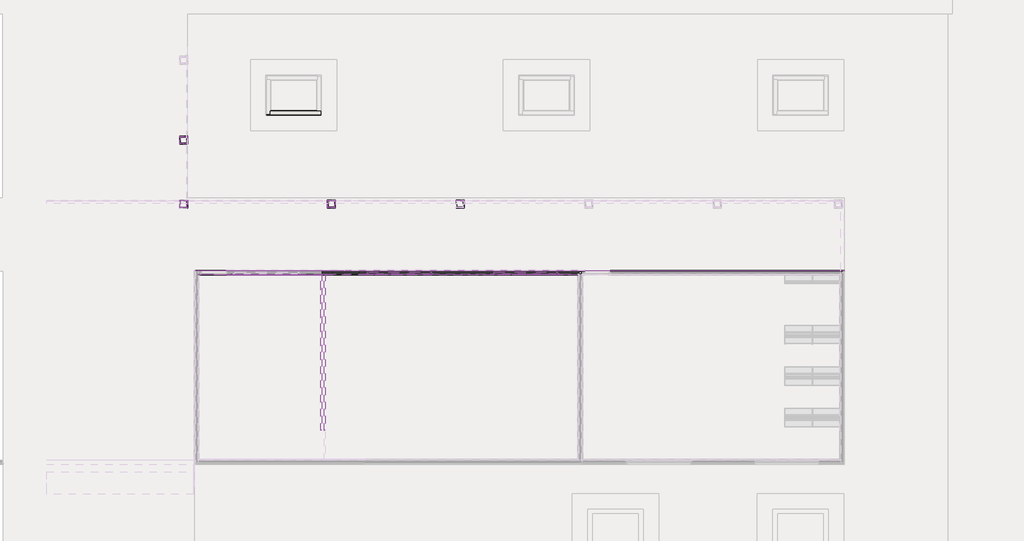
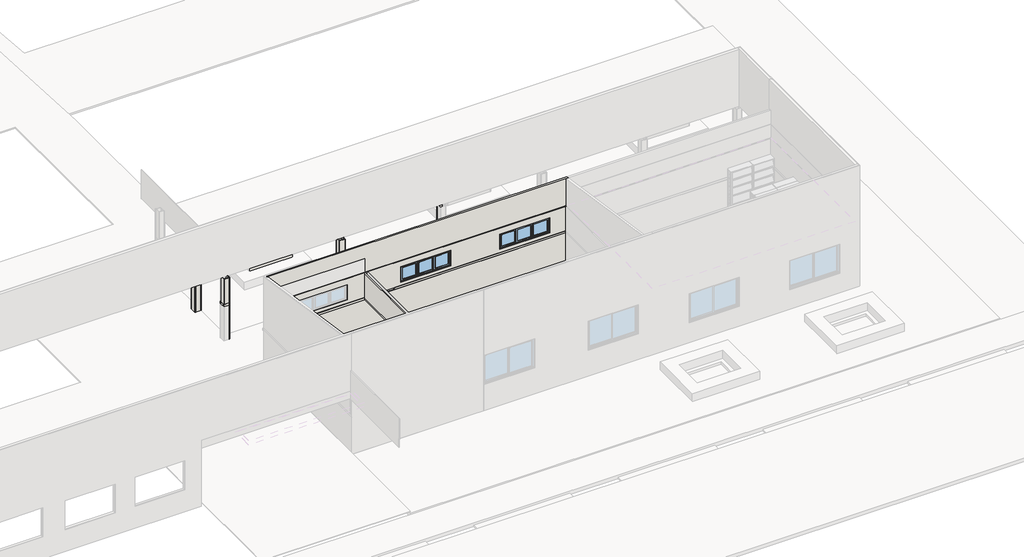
# One storey, part 12 of 28: 57 walls, 2 windows.
"""IFC4 building model written with IfcOpenShell, lengths in millimetres."""

from ifc_helpers import new_model, si_unit, frame, origin, origin_with_axes, place, context, project, spatial, polyline, outline, extrude, faceted_brep, transform, mapped, element, save
from components import window_2x60x220_bcaba8dd

model = new_model("IFC4")

# Units and contexts
model_context = context("Model", 3, world=origin())
ifc_project = project(units=[si_unit("LENGTHUNIT", "METRE", prefix="MILLI")], contexts=[model_context])

# Site, building, storey
site = spatial("IfcSite", under=ifc_project)
building = spatial("IfcBuilding", under=site)
storey = spatial("IfcBuildingStorey", under=building, Name="Térreo", Elevation=0.0)

# Walls
placement = place(None, origin())
element("IfcWall", 1, ObjectType="FDE_S712_AlvenariadeTijoloCerâmico/Baiano_Alvenaria_9cm - Existente", at=placement, inside=storey, context=model_context, shape_type="Brep", body=[
    faceted_brep([(-15270.0, 10580.0, 3500.0), (-23530.0, 10580.0, 3500.0), (-23530.0, 10580.0, 0.0), (-23250.0, 10580.0, 0.0), (-23250.0, 10580.0, 2112.0), (-22416.0, 10580.0, 2112.0), (-22416.0, 10580.0, 1824.9435125), (-22416.0, 10580.0, 1731.0528047), (-22416.0, 10580.0, 0.0), (-15270.0, 10580.0, 0.0), (-15270.0, 10580.0, 1731.0528047), (-15270.0, 10580.0, 1824.9435125), (-15270.0, 10580.0, 2900.0), (-22131.0, 10580.0, 1965.0), (-22131.0, 10580.0, 2635.0), (-20061.0, 10580.0, 2635.0), (-20061.0, 10580.0, 1965.0), (-18035.0, 10580.0, 1965.0), (-18035.0, 10580.0, 2635.0), (-15965.0, 10580.0, 2635.0), (-15965.0, 10580.0, 1965.0), (-23530.0, 10670.0, 3500.0), (-15270.0, 10670.0, 3500.0), (-15270.0, 10670.0, 0.0), (-22416.0, 10670.0, 0.0), (-22416.0, 10670.0, 2112.0), (-23250.0, 10670.0, 2112.0), (-23250.0, 10670.0, 0.0), (-23530.0, 10670.0, 0.0), (-22131.0, 10670.0, 1965.0), (-20061.0, 10670.0, 1965.0), (-20061.0, 10670.0, 2635.0), (-22131.0, 10670.0, 2635.0), (-18035.0, 10670.0, 1965.0), (-15965.0, 10670.0, 1965.0), (-15965.0, 10670.0, 2635.0), (-18035.0, 10670.0, 2635.0)], [[[0, 1, 2, 3, 4, 5, 6, 7, 8, 9, 10, 11, 12], [13, 14, 15, 16], [17, 18, 19, 20]], [[21, 22, 23, 24, 25, 26, 27, 28], [29, 30, 31, 32], [33, 34, 35, 36]], [[2, 28, 27, 3]], [[23, 9, 8, 24]], [[1, 0, 22, 21]], [[2, 1, 21, 28]], [[26, 4, 3, 27]], [[4, 26, 25, 5]], [[5, 25, 24, 8, 7, 6]], [[9, 23, 22, 0, 12, 11, 10]], [[14, 13, 29, 32]], [[15, 14, 32, 31]], [[16, 15, 31, 30]], [[13, 16, 30, 29]], [[18, 17, 33, 36]], [[19, 18, 36, 35]], [[20, 19, 35, 34]], [[17, 20, 34, 33]]]),
])
element("IfcWall", 2, ObjectType="FDE_S712_AlvenariadeTijoloCerâmico/Baiano_Alvenaria_9cm - Existente", at=placement, inside=storey, context=model_context, shape_type="Brep", body=[
    faceted_brep([(-27630.0, 10580.0, 0.0), (-15300.0, 10580.0, 0.0), (-15180.0, 10580.0, 0.0), (-15180.0, 10580.0, 220.0), (-15270.0, 10580.0, 220.0), (-15270.0, 10580.0, 1731.0528047), (-15270.0, 10580.0, 1824.9435125), (-15270.0, 10580.0, 2900.0), (-15180.0, 10580.0, 2900.0), (-15180.0, 10580.0, 4098.5), (-27630.0, 10580.0, 4098.5), (-27630.0, 10580.0, 2900.0), (-27630.0, 10580.0, 1824.9435125), (-27630.0, 10580.0, 1731.0528047), (-27530.0, 10580.0, 240.0), (-27530.0, 10580.0, 1731.0528047), (-27530.0, 10580.0, 1824.9435125), (-27530.0, 10580.0, 2352.0), (-26696.0, 10580.0, 2352.0), (-26696.0, 10580.0, 1824.9435125), (-26696.0, 10580.0, 1731.0528047), (-26696.0, 10580.0, 240.0), (-26431.0, 10580.0, 1965.0), (-26431.0, 10580.0, 2635.0), (-24361.0, 10580.0, 2635.0), (-24361.0, 10580.0, 1965.0), (-22131.0, 10580.0, 1965.0), (-22131.0, 10580.0, 2635.0), (-20061.0, 10580.0, 2635.0), (-20061.0, 10580.0, 1965.0), (-18035.0, 10580.0, 1965.0), (-18035.0, 10580.0, 2635.0), (-15965.0, 10580.0, 2635.0), (-15965.0, 10580.0, 1965.0), (-15180.0, 10670.0, 0.0), (-27630.0, 10670.0, 0.0), (-27630.0, 10670.0, 1731.0528047), (-27630.0, 10670.0, 4085.0), (-15180.0, 10670.0, 4085.0), (-15180.0, 10670.0, 2900.0), (-15270.0, 10670.0, 2900.0), (-15270.0, 10670.0, 1731.0528047), (-15270.0, 10670.0, 220.0), (-15180.0, 10670.0, 220.0), (-27530.0, 10670.0, 2352.0), (-27530.0, 10670.0, 1824.9435125), (-27530.0, 10670.0, 1731.0528047), (-27530.0, 10670.0, 240.0), (-26696.0, 10670.0, 240.0), (-26696.0, 10670.0, 1731.0528047), (-26696.0, 10670.0, 1824.9435125), (-26696.0, 10670.0, 2352.0), (-26431.0, 10670.0, 2635.0), (-26431.0, 10670.0, 1965.0), (-24361.0, 10670.0, 1965.0), (-24361.0, 10670.0, 2635.0), (-22131.0, 10670.0, 2635.0), (-22131.0, 10670.0, 1965.0), (-20061.0, 10670.0, 1965.0), (-20061.0, 10670.0, 2635.0), (-18035.0, 10670.0, 2635.0), (-18035.0, 10670.0, 1965.0), (-15965.0, 10670.0, 1965.0), (-15965.0, 10670.0, 2635.0), (-27630.0, 10655.0, 0.0), (-15180.0, 10655.0, 220.0), (-15270.0, 10655.0, 220.0)], [[[0, 1, 2, 3, 4, 5, 6, 7, 8, 9, 10, 11, 12, 13], [14, 15, 16, 17, 18, 19, 20, 21], [22, 23, 24, 25], [26, 27, 28, 29], [30, 31, 32, 33]], [[34, 35, 36, 37, 38, 39, 40, 41, 42, 43], [44, 45, 46, 47, 48, 49, 50, 51], [52, 53, 54, 55], [56, 57, 58, 59], [60, 61, 62, 63]], [[2, 1, 0, 64, 35, 34]], [[0, 13, 12, 11, 10, 37, 36, 35, 64]], [[14, 47, 46, 45, 44, 17, 16, 15]], [[17, 44, 51, 18]], [[18, 51, 50, 49, 48, 21, 20, 19]], [[47, 14, 21, 48]], [[23, 22, 53, 52]], [[24, 23, 52, 55]], [[25, 24, 55, 54]], [[22, 25, 54, 53]], [[27, 26, 57, 56]], [[28, 27, 56, 59]], [[29, 28, 59, 58]], [[26, 29, 58, 57]], [[31, 30, 61, 60]], [[32, 31, 60, 63]], [[33, 32, 63, 62]], [[30, 33, 62, 61]], [[10, 9, 38, 37]], [[4, 3, 65, 43, 42, 66]], [[2, 34, 43, 65, 3]], [[8, 7, 40, 39]], [[4, 66, 42, 41, 40, 7, 6, 5]], [[38, 9, 8, 39]]]),
])
element("IfcWall", 3, ObjectType="Revestimento Cerâmico 10x10cm", at=placement, inside=storey, context=model_context, shape_type="Brep", body=[
    faceted_brep([(-27720.0, 10655.0, 1731.0528047), (-27720.0, 10655.0, 0.0), (-27630.0, 10655.0, 0.0), (-27630.0, 10655.0, 1731.0528047), (-15180.0, 10655.0, 220.0), (-15180.0, 10655.0, 1731.0528047), (-15270.0, 10655.0, 1731.0528047), (-15270.0, 10655.0, 220.0), (-27530.0, 10685.0, 1731.0528047), (-27530.0, 10685.0, 240.0), (-26696.0, 10685.0, 240.0), (-26696.0, 10685.0, 1731.0528047), (-15080.0, 10685.0, 1731.0528047), (-15080.0, 10685.0, 200.0), (-15080.0, 10685.0, 0.0), (-27720.0, 10685.0, 0.0), (-27720.0, 10685.0, 220.0), (-27720.0, 10685.0, 1731.0528047), (-15080.0, 10670.0, 1731.0528047), (-15180.0, 10670.0, 1731.0528047), (-15180.0, 10670.0, 220.0), (-15270.0, 10670.0, 220.0), (-15270.0, 10670.0, 1731.0528047), (-26696.0, 10670.0, 1731.0528047), (-26696.0, 10670.0, 240.0), (-27530.0, 10670.0, 240.0), (-27530.0, 10670.0, 1731.0528047), (-27630.0, 10670.0, 1731.0528047), (-27630.0, 10670.0, 0.0), (-15180.0, 10670.0, 0.0), (-15080.0, 10670.0, 0.0), (-15080.0, 10670.0, 200.0)], [[[0, 1, 2, 3]], [[4, 5, 6, 7]], [[8, 9, 10, 11, 12, 13, 14, 15, 16, 17]], [[18, 19, 20, 21, 22, 23, 24, 25, 26, 27, 28, 29, 30, 31]], [[9, 8, 26, 25]], [[11, 10, 24, 23]], [[10, 9, 25, 24]], [[1, 0, 17, 16, 15]], [[13, 12, 18, 31, 30, 14]], [[21, 20, 4, 7]], [[19, 5, 4, 20]], [[22, 21, 7, 6]], [[15, 14, 30, 29, 28, 2, 1]], [[8, 17, 0, 3, 27, 26]], [[12, 11, 23, 22, 6, 5, 19, 18]], [[28, 27, 3, 2]]]),
    faceted_brep([(-6650.0, 10655.0, 0.0), (-6650.0, 10655.0, 1731.0528047), (-6680.0, 10655.0, 1731.0528047), (-6770.0, 10655.0, 1731.0528047), (-6770.0, 10655.0, 0.0), (-6680.0, 10655.0, 0.0), (-6650.0, 10685.0, 0.0), (-14246.0, 10685.0, 0.0), (-14246.0, 10685.0, 200.0), (-14246.0, 10685.0, 1731.0528047), (-6650.0, 10685.0, 1731.0528047), (-14246.0, 10670.0, 0.0), (-6770.0, 10670.0, 0.0), (-6770.0, 10670.0, 1731.0528047), (-14246.0, 10670.0, 1731.0528047), (-14246.0, 10670.0, 200.0), (-6650.0, 10670.0, 1731.0528047)], [[[0, 1, 2, 3, 4, 5]], [[6, 7, 8, 9, 10]], [[11, 12, 13, 14, 15]], [[8, 7, 11, 15, 14, 9]], [[1, 0, 6, 10, 16]], [[7, 6, 0, 5, 4, 12, 11]], [[10, 9, 14, 13, 3, 2, 1, 16]], [[13, 12, 4, 3]]]),
])
element("IfcWall", 4, ObjectType="Pardes Externas_Pintura Acrílica Branco Neve", at=placement, inside=storey, context=model_context, shape_type="Brep", body=[
    faceted_brep([(-6650.0, 10670.0, 1824.9435125), (-6650.0, 10670.0, 3944.0), (-27720.0, 10670.0, 3944.0), (-27720.0, 10670.0, 1824.9435125), (-27530.0, 10670.0, 1824.9435125), (-27530.0, 10670.0, 2352.0), (-26696.0, 10670.0, 2352.0), (-26696.0, 10670.0, 1824.9435125), (-15080.0, 10670.0, 1824.9435125), (-15080.0, 10670.0, 2312.0), (-14246.0, 10670.0, 2312.0), (-14246.0, 10670.0, 1824.9435125), (-26431.0, 10670.0, 1965.0), (-26431.0, 10670.0, 2635.0), (-24361.0, 10670.0, 2635.0), (-24361.0, 10670.0, 1965.0), (-22131.0, 10670.0, 1965.0), (-22131.0, 10670.0, 2635.0), (-20061.0, 10670.0, 2635.0), (-20061.0, 10670.0, 1965.0), (-18035.0, 10670.0, 1965.0), (-18035.0, 10670.0, 2635.0), (-15965.0, 10670.0, 2635.0), (-15965.0, 10670.0, 1965.0), (-6650.0, 10691.0, 3944.0), (-6650.0, 10691.0, 1824.9435125), (-14246.0, 10691.0, 1824.9435125), (-14246.0, 10691.0, 2312.0), (-15080.0, 10691.0, 2312.0), (-15080.0, 10691.0, 1824.9435125), (-26696.0, 10691.0, 1824.9435125), (-26696.0, 10691.0, 2352.0), (-27530.0, 10691.0, 2352.0), (-27530.0, 10691.0, 1824.9435125), (-27720.0, 10691.0, 1824.9435125), (-27720.0, 10691.0, 3944.0), (-26431.0, 10691.0, 1965.0), (-24361.0, 10691.0, 1965.0), (-24361.0, 10691.0, 2635.0), (-26431.0, 10691.0, 2635.0), (-22131.0, 10691.0, 1965.0), (-20061.0, 10691.0, 1965.0), (-20061.0, 10691.0, 2635.0), (-22131.0, 10691.0, 2635.0), (-18035.0, 10691.0, 1965.0), (-15965.0, 10691.0, 1965.0), (-15965.0, 10691.0, 2635.0), (-18035.0, 10691.0, 2635.0), (-27530.0, 10685.0, 1824.9435125), (-26696.0, 10685.0, 1824.9435125), (-15080.0, 10685.0, 1824.9435125), (-14246.0, 10685.0, 1824.9435125)], [[[0, 1, 2, 3, 4, 5, 6, 7, 8, 9, 10, 11], [12, 13, 14, 15], [16, 17, 18, 19], [20, 21, 22, 23]], [[24, 25, 26, 27, 28, 29, 30, 31, 32, 33, 34, 35], [36, 37, 38, 39], [40, 41, 42, 43], [44, 45, 46, 47]], [[3, 2, 35, 34]], [[32, 5, 4, 48, 33]], [[5, 32, 31, 6]], [[6, 31, 30, 49, 7]], [[13, 12, 36, 39]], [[14, 13, 39, 38]], [[15, 14, 38, 37]], [[12, 15, 37, 36]], [[17, 16, 40, 43]], [[18, 17, 43, 42]], [[19, 18, 42, 41]], [[16, 19, 41, 40]], [[21, 20, 44, 47]], [[22, 21, 47, 46]], [[23, 22, 46, 45]], [[20, 23, 45, 44]], [[28, 9, 8, 50, 29]], [[9, 28, 27, 10]], [[10, 27, 26, 51, 11]], [[4, 3, 34, 33, 48]], [[25, 0, 11, 51, 26]], [[7, 49, 30, 29, 50, 8]], [[1, 0, 25, 24]], [[2, 1, 24, 35]]]),
])
element("IfcWall", 5, ObjectType="Revestimento Cerâmico 10x10cm", at=placement, inside=storey, context=model_context, shape_type="Brep", body=[
    faceted_brep([(-15300.0, 10580.0, 0.0), (-27630.0, 10580.0, 0.0), (-27630.0, 10580.0, 1731.0528047), (-27530.0, 10580.0, 1731.0528047), (-27530.0, 10580.0, 240.0), (-26696.0, 10580.0, 240.0), (-26696.0, 10580.0, 1731.0528047), (-22416.0, 10580.0, 1731.0528047), (-15300.0, 10580.0, 1731.0528047), (-15300.0, 10580.0, 220.0), (-27630.0, 10550.0, 0.0), (-15300.0, 10550.0, 0.0), (-15300.0, 10550.0, 1731.0528047), (-22416.0, 10550.0, 1731.0528047), (-26696.0, 10550.0, 1731.0528047), (-26696.0, 10550.0, 240.0), (-27530.0, 10550.0, 240.0), (-27530.0, 10550.0, 1731.0528047), (-27600.0, 10550.0, 1731.0528047), (-27630.0, 10550.0, 1731.0528047), (-27630.0, 10550.0, 220.0)], [[[0, 1, 2, 3, 4, 5, 6, 7, 8, 9]], [[10, 11, 12, 13, 14, 15, 16, 17, 18, 19, 20]], [[1, 0, 11, 10]], [[2, 19, 18, 17, 3]], [[12, 8, 7, 6, 14, 13]], [[1, 10, 20, 19, 2]], [[11, 0, 9, 8, 12]], [[16, 4, 3, 17]], [[5, 15, 14, 6]], [[4, 16, 15, 5]]]),
])
element("IfcWall", 6, ObjectType="Faixa - Revestimento Cerâmico Verde Folha 10x10cm", at=placement, inside=storey, context=model_context, shape_type="Brep", body=[
    faceted_brep([(-23650.0, 10550.0, 1731.0528047), (-26696.0, 10550.0, 1731.0528047), (-26696.0, 10550.0, 1824.9435125), (-23650.0, 10550.0, 1824.9435125), (-23650.0, 10520.0, 1731.0528047), (-23650.0, 10520.0, 1824.9435125), (-26696.0, 10520.0, 1824.9435125), (-26696.0, 10520.0, 1731.0528047), (-26696.0, 10549.0, 1824.9435125)], [[[0, 1, 2, 3]], [[4, 5, 6, 7]], [[1, 0, 4, 7]], [[2, 1, 7, 6, 8]], [[3, 2, 8, 6, 5]], [[0, 3, 5, 4]]]),
])
element("IfcWall", 7, ObjectType="Pardes Internas_Pintura Acrílica Branco Neve 2", at=placement, inside=storey, context=model_context, shape_type="Brep", body=[
    faceted_brep([(-27630.0, 10580.0, 2900.0), (-15270.0, 10580.0, 2900.0), (-15270.0, 10580.0, 1824.9435125), (-15300.0, 10580.0, 1824.9435125), (-22416.0, 10580.0, 1824.9435125), (-26696.0, 10580.0, 1824.9435125), (-26696.0, 10580.0, 2352.0), (-27530.0, 10580.0, 2352.0), (-27530.0, 10580.0, 1824.9435125), (-27630.0, 10580.0, 1824.9435125), (-22131.0, 10580.0, 1965.0), (-20061.0, 10580.0, 1965.0), (-20061.0, 10580.0, 2635.0), (-22131.0, 10580.0, 2635.0), (-18035.0, 10580.0, 1965.0), (-15965.0, 10580.0, 1965.0), (-15965.0, 10580.0, 2635.0), (-18035.0, 10580.0, 2635.0), (-26431.0, 10580.0, 1965.0), (-24361.0, 10580.0, 1965.0), (-24361.0, 10580.0, 2635.0), (-26431.0, 10580.0, 2635.0), (-15270.0, 10549.0, 2900.0), (-27599.0, 10549.0, 2900.0), (-27630.0, 10549.0, 2900.0), (-27630.0, 10549.0, 1824.9435125), (-27599.0, 10549.0, 1824.9435125), (-27530.0, 10549.0, 1824.9435125), (-27530.0, 10549.0, 2352.0), (-26696.0, 10549.0, 2352.0), (-26696.0, 10549.0, 1824.9435125), (-15270.0, 10549.0, 1824.9435125), (-26431.0, 10549.0, 1965.0), (-26431.0, 10549.0, 2635.0), (-24361.0, 10549.0, 2635.0), (-24361.0, 10549.0, 1965.0), (-22131.0, 10549.0, 1965.0), (-22131.0, 10549.0, 2635.0), (-20061.0, 10549.0, 2635.0), (-20061.0, 10549.0, 1965.0), (-18035.0, 10549.0, 1965.0), (-18035.0, 10549.0, 2635.0), (-15965.0, 10549.0, 2635.0), (-15965.0, 10549.0, 1965.0), (-15270.0, 10550.0, 1824.9435125), (-26696.0, 10550.0, 1824.9435125)], [[[0, 1, 2, 3, 4, 5, 6, 7, 8, 9], [10, 11, 12, 13], [14, 15, 16, 17], [18, 19, 20, 21]], [[22, 23, 24, 25, 26, 27, 28, 29, 30, 31], [32, 33, 34, 35], [36, 37, 38, 39], [40, 41, 42, 43]], [[25, 9, 8, 27, 26]], [[2, 44, 31, 30, 45, 5, 4, 3]], [[1, 0, 24, 23, 22]], [[9, 25, 24, 0]], [[31, 44, 2, 1, 22]], [[7, 28, 27, 8]], [[28, 7, 6, 29]], [[29, 6, 5, 45, 30]], [[33, 32, 18, 21]], [[34, 33, 21, 20]], [[35, 34, 20, 19]], [[32, 35, 19, 18]], [[37, 36, 10, 13]], [[38, 37, 13, 12]], [[39, 38, 12, 11]], [[36, 39, 11, 10]], [[41, 40, 14, 17]], [[42, 41, 17, 16]], [[43, 42, 16, 15]], [[40, 43, 15, 14]]]),
])
element("IfcWall", 8, ObjectType="Faixa - Revestimento Cerâmico Verde Folha 10x10cm", at=placement, inside=storey, context=model_context, shape_type="Brep", body=[
    faceted_brep([(-22416.0, 10550.0, 1731.0528047), (-15300.0, 10550.0, 1731.0528047), (-15270.0, 10550.0, 1731.0528047), (-15270.0, 10550.0, 1824.9435125), (-22416.0, 10550.0, 1824.9435125), (-22416.0, 10580.0, 1731.0528047), (-22416.0, 10580.0, 1824.9435125), (-15270.0, 10580.0, 1824.9435125), (-15270.0, 10580.0, 1731.0528047), (-15300.0, 10580.0, 1731.0528047)], [[[0, 1, 2, 3, 4]], [[5, 6, 7, 8, 9]], [[3, 2, 8, 7]], [[2, 1, 0, 5, 9, 8]], [[4, 3, 7, 6]], [[0, 4, 6, 5]]]),
])
element("IfcWall", 9, ObjectType="Faixa - Revestimento Cerâmico Verde Folha 10x10cm", at=placement, inside=storey, context=model_context, shape_type="SweptSolid", body=[
    extrude(outline(polyline([(-23575.0, 10580.0), (-23250.0, 10580.0), (-23250.0, 10550.0), (-23575.0, 10550.0), (-23575.0, 10580.0)])), frame((0.0, 0.0, 1731.0528047), z_axis=(0.0, 0.0, 1.0), x_axis=(1.0, 0.0, 0.0)), (0.0, 0.0, 1.0), 93.8907079),
])
element("IfcWall", 10, ObjectType="Faixa - Revestimento Cerâmico Verde Folha 10x10cm", at=placement, inside=storey, context=model_context, shape_type="SweptSolid", body=[
    extrude(outline(polyline([(-23530.0, 5500.2772826), (-23530.0, 10580.0), (-23500.0, 10580.0), (-23500.0, 5500.2772826), (-23530.0, 5500.2772826)])), frame((0.0, 0.0, 1731.0528047), z_axis=(0.0, 0.0, 1.0), x_axis=(1.0, 0.0, 0.0)), (0.0, 0.0, 1.0), 93.8907079),
])
element("IfcWall", 11, ObjectType="Faixa - Revestimento Cerâmico Verde Folha 10x10cm", at=placement, inside=storey, context=model_context, shape_type="Brep", body=[
    faceted_brep([(-23620.0, 5500.2772826, 1731.0528047), (-23620.0, 10580.0, 1731.0528047), (-23620.0, 10580.0, 1824.9435125), (-23620.0, 5500.2772826, 1824.9435125), (-23650.0, 5500.2772826, 1731.0528047), (-23650.0, 5500.2772826, 1824.9435125), (-23650.0, 10520.0, 1824.9435125), (-23650.0, 10550.0, 1824.9435125), (-23650.0, 10580.0, 1824.9435125), (-23650.0, 10580.0, 1731.0528047), (-23650.0, 10550.0, 1731.0528047), (-23650.0, 10520.0, 1731.0528047)], [[[0, 1, 2, 3]], [[4, 5, 6, 7, 8, 9, 10, 11]], [[1, 0, 4, 11, 10, 9]], [[3, 2, 8, 7, 6, 5]], [[0, 3, 5, 4]], [[2, 1, 9, 8]]]),
])
element("IfcWall", 12, ObjectType="Pardes Internas_Pintura Acrílica Branco Neve 2", at=placement, inside=storey, context=model_context, shape_type="SweptSolid", body=[
    extrude(outline(polyline([(-23620.0, 10580.0), (-23620.0, 5500.2772826), (-23651.0, 5500.2772826), (-23651.0, 10580.0), (-23620.0, 10580.0)])), frame((0.0, 0.0, 1824.9435125), z_axis=(0.0, 0.0, 1.0), x_axis=(1.0, 0.0, 0.0)), (0.0, 0.0, 1.0), 1075.0564875),
])
element("IfcWall", 13, ObjectType="Revestimento Cerâmico 10x10cm", at=placement, inside=storey, context=model_context, shape_type="Brep", body=[
    faceted_brep([(-28000.0, 12950.0, 194.0), (-28000.0, 12750.0, 194.0), (-28000.0, 12720.0, 194.0), (-28000.0, 12720.0, 1694.0), (-28000.0, 12750.0, 1694.0), (-28000.0, 12950.0, 1694.0), (-27970.0, 12950.0, 194.0), (-27970.0, 12950.0, 1694.0), (-27970.0, 12720.0, 1694.0), (-27970.0, 12720.0, 194.0)], [[[0, 1, 2, 3, 4, 5]], [[6, 7, 8, 9]], [[2, 1, 0, 6, 9]], [[5, 4, 3, 8, 7]], [[0, 5, 7, 6]], [[3, 2, 9, 8]]]),
])
element("IfcWall", 14, ObjectType="Faixa - Revestimento Cerâmico Verde Folha 10x10cm", at=placement, inside=storey, context=model_context, shape_type="Brep", body=[
    faceted_brep([(-28230.0, 12950.0, 1694.0), (-28200.0, 12950.0, 1694.0), (-28000.0, 12950.0, 1694.0), (-27970.0, 12950.0, 1694.0), (-27970.0, 12950.0, 1794.0), (-28000.0, 12950.0, 1794.0), (-28200.0, 12950.0, 1794.0), (-28230.0, 12950.0, 1794.0), (-28230.0, 12980.0, 1694.0), (-28230.0, 12980.0, 1794.0), (-27970.0, 12980.0, 1794.0), (-27970.0, 12980.0, 1694.0)], [[[0, 1, 2, 3, 4, 5, 6, 7]], [[8, 9, 10, 11]], [[3, 2, 1, 0, 8, 11]], [[7, 6, 5, 4, 10, 9]], [[4, 3, 11, 10]], [[0, 7, 9, 8]]]),
])
element("IfcWall", 15, ObjectType="Faixa - Revestimento Cerâmico Verde Folha 10x10cm", at=placement, inside=storey, context=model_context, shape_type="Brep", body=[
    faceted_brep([(-28000.0, 12950.0, 1694.0), (-28000.0, 12750.0, 1694.0), (-28000.0, 12720.0, 1694.0), (-28000.0, 12720.0, 1794.0), (-28000.0, 12750.0, 1794.0), (-28000.0, 12950.0, 1794.0), (-27970.0, 12950.0, 1694.0), (-27970.0, 12950.0, 1794.0), (-27970.0, 12720.0, 1794.0), (-27970.0, 12720.0, 1694.0)], [[[0, 1, 2, 3, 4, 5]], [[6, 7, 8, 9]], [[2, 1, 0, 6, 9]], [[5, 4, 3, 8, 7]], [[0, 5, 7, 6]], [[3, 2, 9, 8]]]),
])
element("IfcWall", 16, ObjectType="Faixa - Revestimento Cerâmico Verde Folha 10x10cm", at=placement, inside=storey, context=model_context, shape_type="Brep", body=[
    faceted_brep([(-28230.0, 12720.0, 1694.0), (-28000.0, 12720.0, 1694.0), (-28000.0, 12720.0, 1794.0), (-28230.0, 12720.0, 1794.0), (-28230.0, 12750.0, 1694.0), (-28230.0, 12750.0, 1794.0), (-28200.0, 12750.0, 1794.0), (-28000.0, 12750.0, 1794.0), (-28000.0, 12750.0, 1694.0), (-28200.0, 12750.0, 1694.0), (-28000.0, 12729.0, 1794.0)], [[[0, 1, 2, 3]], [[4, 5, 6, 7, 8, 9]], [[1, 0, 4, 9, 8]], [[3, 2, 10, 7, 6, 5]], [[2, 1, 8, 7, 10]], [[0, 3, 5, 4]]]),
])
element("IfcWall", 17, ObjectType="Faixa - Revestimento Cerâmico Verde Folha 10x10cm", at=placement, inside=storey, context=model_context, shape_type="SweptSolid", body=[
    extrude(outline(polyline([(-28230.0, 12750.0), (-28230.0, 12950.0), (-28200.0, 12950.0), (-28200.0, 12750.0), (-28230.0, 12750.0)])), frame((0.0, 0.0, 1694.0), z_axis=(0.0, 0.0, 1.0), x_axis=(1.0, 0.0, 0.0)), (0.0, 0.0, 1.0), 100.0),
])
element("IfcWall", 18, ObjectType="Pardes Externas_Pintura Acrílica Branco Neve", at=placement, inside=storey, context=model_context, shape_type="SweptSolid", body=[
    extrude(outline(polyline([(-28000.0, 12729.0), (-28200.0, 12729.0), (-28200.0, 12750.0), (-28000.0, 12750.0), (-28000.0, 12729.0)])), frame((0.0, 0.0, 1794.0), z_axis=(0.0, 0.0, 1.0), x_axis=(1.0, 0.0, 0.0)), (0.0, 0.0, 1.0), 1106.0),
])
element("IfcWall", 19, ObjectType="Pardes Externas_Pintura Acrílica Branco Neve", at=placement, inside=storey, context=model_context, shape_type="Brep", body=[
    faceted_brep([(-28000.0, 12950.0, 2900.0), (-28000.0, 12950.0, 1794.0), (-28000.0, 12750.0, 1794.0), (-28000.0, 12729.0, 1794.0), (-28000.0, 12729.0, 2900.0), (-28000.0, 12750.0, 2900.0), (-27979.0, 12950.0, 1794.0), (-27979.0, 12950.0, 2900.0), (-27979.0, 12729.0, 2900.0), (-27979.0, 12729.0, 1794.0)], [[[0, 1, 2, 3, 4, 5]], [[6, 7, 8, 9]], [[3, 2, 1, 6, 9]], [[0, 5, 4, 8, 7]], [[4, 3, 9, 8]], [[0, 7, 6, 1]]]),
])
element("IfcWall", 20, ObjectType="Pardes Externas_Pintura Acrílica Branco Neve", at=placement, inside=storey, context=model_context, shape_type="Brep", body=[
    faceted_brep([(-28221.0, 12950.0, 1794.0), (-28221.0, 12729.0, 1794.0), (-28221.0, 12729.0, 2900.0), (-28221.0, 12950.0, 2900.0), (-28200.0, 12950.0, 1794.0), (-28200.0, 12950.0, 2900.0), (-28200.0, 12750.0, 2900.0), (-28200.0, 12729.0, 2900.0), (-28200.0, 12729.0, 1794.0), (-28200.0, 12750.0, 1794.0)], [[[0, 1, 2, 3]], [[4, 5, 6, 7, 8, 9]], [[1, 0, 4, 9, 8]], [[3, 2, 7, 6, 5]], [[2, 1, 8, 7]], [[0, 3, 5, 4]]]),
])
element("IfcWall", 21, ObjectType="Pardes Externas_Pintura Acrílica Branco Neve", at=placement, inside=storey, context=model_context, shape_type="Brep", body=[
    faceted_brep([(-23421.0, 12950.0, 1794.0), (-23400.0, 12950.0, 1794.0), (-23200.0, 12950.0, 1794.0), (-23179.0, 12950.0, 1794.0), (-23179.0, 12950.0, 2900.0), (-23200.0, 12950.0, 2900.0), (-23400.0, 12950.0, 2900.0), (-23421.0, 12950.0, 2900.0), (-23421.0, 12971.0, 1794.0), (-23421.0, 12971.0, 2900.0), (-23179.0, 12971.0, 2900.0), (-23179.0, 12971.0, 1794.0)], [[[0, 1, 2, 3, 4, 5, 6, 7]], [[8, 9, 10, 11]], [[3, 2, 1, 0, 8, 11]], [[7, 6, 5, 4, 10, 9]], [[0, 7, 9, 8]], [[4, 3, 11, 10]]]),
])
element("IfcWall", 22, ObjectType="Revestimento Cerâmico 10x10cm", at=placement, inside=storey, context=model_context, shape_type="Brep", body=[
    faceted_brep([(-23430.0, 12950.0, 194.0), (-23400.0, 12950.0, 194.0), (-23200.0, 12950.0, 194.0), (-23170.0, 12950.0, 194.0), (-23170.0, 12950.0, 1694.0), (-23200.0, 12950.0, 1694.0), (-23400.0, 12950.0, 1694.0), (-23430.0, 12950.0, 1694.0), (-23430.0, 12980.0, 194.0), (-23430.0, 12980.0, 1694.0), (-23170.0, 12980.0, 1694.0), (-23170.0, 12980.0, 194.0)], [[[0, 1, 2, 3, 4, 5, 6, 7]], [[8, 9, 10, 11]], [[3, 2, 1, 0, 8, 11]], [[7, 6, 5, 4, 10, 9]], [[0, 7, 9, 8]], [[4, 3, 11, 10]]]),
])
element("IfcWall", 23, ObjectType="Revestimento Cerâmico 10x10cm", at=placement, inside=storey, context=model_context, shape_type="Brep", body=[
    faceted_brep([(-23400.0, 12720.0, 194.0), (-23400.0, 12750.0, 194.0), (-23400.0, 12950.0, 194.0), (-23400.0, 12950.0, 1694.0), (-23400.0, 12750.0, 1694.0), (-23400.0, 12720.0, 1694.0), (-23430.0, 12720.0, 194.0), (-23430.0, 12720.0, 1694.0), (-23430.0, 12950.0, 1694.0), (-23430.0, 12950.0, 194.0)], [[[0, 1, 2, 3, 4, 5]], [[6, 7, 8, 9]], [[2, 1, 0, 6, 9]], [[5, 4, 3, 8, 7]], [[3, 2, 9, 8]], [[0, 5, 7, 6]]]),
])
element("IfcWall", 24, ObjectType="Revestimento Cerâmico 10x10cm", at=placement, inside=storey, context=model_context, shape_type="Brep", body=[
    faceted_brep([(-23200.0, 12950.0, 194.0), (-23200.0, 12750.0, 194.0), (-23200.0, 12720.0, 194.0), (-23200.0, 12720.0, 1694.0), (-23200.0, 12750.0, 1694.0), (-23200.0, 12950.0, 1694.0), (-23170.0, 12950.0, 194.0), (-23170.0, 12950.0, 1694.0), (-23170.0, 12720.0, 1694.0), (-23170.0, 12720.0, 194.0)], [[[0, 1, 2, 3, 4, 5]], [[6, 7, 8, 9]], [[2, 1, 0, 6, 9]], [[5, 4, 3, 8, 7]], [[0, 5, 7, 6]], [[3, 2, 9, 8]]]),
])
element("IfcWall", 25, ObjectType="Revestimento Cerâmico 10x10cm", at=placement, inside=storey, context=model_context, shape_type="SweptSolid", body=[
    extrude(outline(polyline([(-23200.0, 12720.0), (-23400.0, 12720.0), (-23400.0, 12750.0), (-23200.0, 12750.0), (-23200.0, 12720.0)])), frame((0.0, 0.0, 194.0), z_axis=(0.0, 0.0, 1.0), x_axis=(1.0, 0.0, 0.0)), (0.0, 0.0, 1.0), 1500.0),
])
element("IfcWall", 26, ObjectType="Faixa - Revestimento Cerâmico Verde Folha 10x10cm", at=placement, inside=storey, context=model_context, shape_type="Brep", body=[
    faceted_brep([(-23430.0, 12950.0, 1694.0), (-23400.0, 12950.0, 1694.0), (-23200.0, 12950.0, 1694.0), (-23170.0, 12950.0, 1694.0), (-23170.0, 12950.0, 1794.0), (-23200.0, 12950.0, 1794.0), (-23400.0, 12950.0, 1794.0), (-23430.0, 12950.0, 1794.0), (-23430.0, 12980.0, 1694.0), (-23430.0, 12980.0, 1794.0), (-23170.0, 12980.0, 1794.0), (-23170.0, 12980.0, 1694.0)], [[[0, 1, 2, 3, 4, 5, 6, 7]], [[8, 9, 10, 11]], [[3, 2, 1, 0, 8, 11]], [[7, 6, 5, 4, 10, 9]], [[4, 3, 11, 10]], [[0, 7, 9, 8]]]),
])
element("IfcWall", 27, ObjectType="Faixa - Revestimento Cerâmico Verde Folha 10x10cm", at=placement, inside=storey, context=model_context, shape_type="Brep", body=[
    faceted_brep([(-23200.0, 12950.0, 1694.0), (-23200.0, 12750.0, 1694.0), (-23200.0, 12720.0, 1694.0), (-23200.0, 12720.0, 1794.0), (-23200.0, 12750.0, 1794.0), (-23200.0, 12950.0, 1794.0), (-23170.0, 12950.0, 1694.0), (-23170.0, 12950.0, 1794.0), (-23170.0, 12720.0, 1794.0), (-23170.0, 12720.0, 1694.0)], [[[0, 1, 2, 3, 4, 5]], [[6, 7, 8, 9]], [[2, 1, 0, 6, 9]], [[5, 4, 3, 8, 7]], [[0, 5, 7, 6]], [[3, 2, 9, 8]]]),
])
element("IfcWall", 28, ObjectType="Faixa - Revestimento Cerâmico Verde Folha 10x10cm", at=placement, inside=storey, context=model_context, shape_type="Brep", body=[
    faceted_brep([(-23430.0, 12720.0, 1694.0), (-23200.0, 12720.0, 1694.0), (-23200.0, 12720.0, 1794.0), (-23430.0, 12720.0, 1794.0), (-23430.0, 12750.0, 1694.0), (-23430.0, 12750.0, 1794.0), (-23400.0, 12750.0, 1794.0), (-23200.0, 12750.0, 1794.0), (-23200.0, 12750.0, 1694.0), (-23400.0, 12750.0, 1694.0), (-23200.0, 12729.0, 1794.0)], [[[0, 1, 2, 3]], [[4, 5, 6, 7, 8, 9]], [[1, 0, 4, 9, 8]], [[3, 2, 10, 7, 6, 5]], [[2, 1, 8, 7, 10]], [[0, 3, 5, 4]]]),
])
element("IfcWall", 29, ObjectType="Faixa - Revestimento Cerâmico Verde Folha 10x10cm", at=placement, inside=storey, context=model_context, shape_type="SweptSolid", body=[
    extrude(outline(polyline([(-23430.0, 12750.0), (-23430.0, 12950.0), (-23400.0, 12950.0), (-23400.0, 12750.0), (-23430.0, 12750.0)])), frame((0.0, 0.0, 1694.0), z_axis=(0.0, 0.0, 1.0), x_axis=(1.0, 0.0, 0.0)), (0.0, 0.0, 1.0), 100.0),
])
element("IfcWall", 30, ObjectType="Pardes Externas_Pintura Acrílica Branco Neve", at=placement, inside=storey, context=model_context, shape_type="SweptSolid", body=[
    extrude(outline(polyline([(-23200.0, 12729.0), (-23400.0, 12729.0), (-23400.0, 12750.0), (-23200.0, 12750.0), (-23200.0, 12729.0)])), frame((0.0, 0.0, 1794.0), z_axis=(0.0, 0.0, 1.0), x_axis=(1.0, 0.0, 0.0)), (0.0, 0.0, 1.0), 1106.0),
])
element("IfcWall", 31, ObjectType="Pardes Externas_Pintura Acrílica Branco Neve", at=placement, inside=storey, context=model_context, shape_type="Brep", body=[
    faceted_brep([(-23200.0, 12950.0, 1794.0), (-23200.0, 12750.0, 1794.0), (-23200.0, 12729.0, 1794.0), (-23200.0, 12729.0, 2900.0), (-23200.0, 12750.0, 2900.0), (-23200.0, 12950.0, 2900.0), (-23179.0, 12950.0, 1794.0), (-23179.0, 12950.0, 2900.0), (-23179.0, 12729.0, 2900.0), (-23179.0, 12729.0, 1794.0)], [[[0, 1, 2, 3, 4, 5]], [[6, 7, 8, 9]], [[2, 1, 0, 6, 9]], [[5, 4, 3, 8, 7]], [[3, 2, 9, 8]], [[0, 5, 7, 6]]]),
])
element("IfcWall", 32, ObjectType="Pardes Externas_Pintura Acrílica Branco Neve", at=placement, inside=storey, context=model_context, shape_type="Brep", body=[
    faceted_brep([(-23421.0, 12950.0, 1794.0), (-23421.0, 12729.0, 1794.0), (-23421.0, 12729.0, 2900.0), (-23421.0, 12950.0, 2900.0), (-23400.0, 12950.0, 1794.0), (-23400.0, 12950.0, 2900.0), (-23400.0, 12750.0, 2900.0), (-23400.0, 12729.0, 2900.0), (-23400.0, 12729.0, 1794.0), (-23400.0, 12750.0, 1794.0)], [[[0, 1, 2, 3]], [[4, 5, 6, 7, 8, 9]], [[1, 0, 4, 9, 8]], [[3, 2, 7, 6, 5]], [[2, 1, 8, 7]], [[0, 3, 5, 4]]]),
])
element("IfcWall", 33, ObjectType="Pardes Externas_Pintura Acrílica Branco Neve", at=placement, inside=storey, context=model_context, shape_type="Brep", body=[
    faceted_brep([(-19246.0, 12950.0, 1794.0), (-19225.0, 12950.0, 1794.0), (-19025.0, 12950.0, 1794.0), (-19004.0, 12950.0, 1794.0), (-19004.0, 12950.0, 2900.0), (-19025.0, 12950.0, 2900.0), (-19225.0, 12950.0, 2900.0), (-19246.0, 12950.0, 2900.0), (-19246.0, 12971.0, 1794.0), (-19246.0, 12971.0, 2900.0), (-19004.0, 12971.0, 2900.0), (-19004.0, 12971.0, 1794.0)], [[[0, 1, 2, 3, 4, 5, 6, 7]], [[8, 9, 10, 11]], [[3, 2, 1, 0, 8, 11]], [[7, 6, 5, 4, 10, 9]], [[0, 7, 9, 8]], [[4, 3, 11, 10]]]),
])
element("IfcWall", 34, ObjectType="Revestimento Cerâmico 10x10cm", at=placement, inside=storey, context=model_context, shape_type="Brep", body=[
    faceted_brep([(-19255.0, 12950.0, 194.0), (-19225.0, 12950.0, 194.0), (-19025.0, 12950.0, 194.0), (-18995.0, 12950.0, 194.0), (-18995.0, 12950.0, 1694.0), (-19025.0, 12950.0, 1694.0), (-19225.0, 12950.0, 1694.0), (-19255.0, 12950.0, 1694.0), (-19255.0, 12980.0, 194.0), (-19255.0, 12980.0, 1694.0), (-18995.0, 12980.0, 1694.0), (-18995.0, 12980.0, 194.0)], [[[0, 1, 2, 3, 4, 5, 6, 7]], [[8, 9, 10, 11]], [[3, 2, 1, 0, 8, 11]], [[7, 6, 5, 4, 10, 9]], [[0, 7, 9, 8]], [[4, 3, 11, 10]]]),
])
element("IfcWall", 35, ObjectType="Revestimento Cerâmico 10x10cm", at=placement, inside=storey, context=model_context, shape_type="Brep", body=[
    faceted_brep([(-19225.0, 12720.0, 194.0), (-19225.0, 12750.0, 194.0), (-19225.0, 12950.0, 194.0), (-19225.0, 12950.0, 1694.0), (-19225.0, 12750.0, 1694.0), (-19225.0, 12720.0, 1694.0), (-19255.0, 12720.0, 194.0), (-19255.0, 12720.0, 1694.0), (-19255.0, 12950.0, 1694.0), (-19255.0, 12950.0, 194.0)], [[[0, 1, 2, 3, 4, 5]], [[6, 7, 8, 9]], [[2, 1, 0, 6, 9]], [[5, 4, 3, 8, 7]], [[3, 2, 9, 8]], [[0, 5, 7, 6]]]),
])
element("IfcWall", 36, ObjectType="Revestimento Cerâmico 10x10cm", at=placement, inside=storey, context=model_context, shape_type="Brep", body=[
    faceted_brep([(-19025.0, 12950.0, 194.0), (-19025.0, 12750.0, 194.0), (-19025.0, 12720.0, 194.0), (-19025.0, 12720.0, 1694.0), (-19025.0, 12750.0, 1694.0), (-19025.0, 12950.0, 1694.0), (-18995.0, 12950.0, 194.0), (-18995.0, 12950.0, 1694.0), (-18995.0, 12720.0, 1694.0), (-18995.0, 12720.0, 194.0)], [[[0, 1, 2, 3, 4, 5]], [[6, 7, 8, 9]], [[2, 1, 0, 6, 9]], [[5, 4, 3, 8, 7]], [[0, 5, 7, 6]], [[3, 2, 9, 8]]]),
])
element("IfcWall", 37, ObjectType="Revestimento Cerâmico 10x10cm", at=placement, inside=storey, context=model_context, shape_type="SweptSolid", body=[
    extrude(outline(polyline([(-19025.0, 12720.0), (-19225.0, 12720.0), (-19225.0, 12750.0), (-19025.0, 12750.0), (-19025.0, 12720.0)])), frame((0.0, 0.0, 194.0), z_axis=(0.0, 0.0, 1.0), x_axis=(1.0, 0.0, 0.0)), (0.0, 0.0, 1.0), 1500.0),
])
element("IfcWall", 38, ObjectType="Faixa - Revestimento Cerâmico Verde Folha 10x10cm", at=placement, inside=storey, context=model_context, shape_type="Brep", body=[
    faceted_brep([(-19255.0, 12950.0, 1694.0), (-19225.0, 12950.0, 1694.0), (-19025.0, 12950.0, 1694.0), (-18995.0, 12950.0, 1694.0), (-18995.0, 12950.0, 1794.0), (-19025.0, 12950.0, 1794.0), (-19225.0, 12950.0, 1794.0), (-19255.0, 12950.0, 1794.0), (-19255.0, 12980.0, 1694.0), (-19255.0, 12980.0, 1794.0), (-18995.0, 12980.0, 1794.0), (-18995.0, 12980.0, 1694.0)], [[[0, 1, 2, 3, 4, 5, 6, 7]], [[8, 9, 10, 11]], [[3, 2, 1, 0, 8, 11]], [[7, 6, 5, 4, 10, 9]], [[4, 3, 11, 10]], [[0, 7, 9, 8]]]),
])
element("IfcWall", 39, ObjectType="Faixa - Revestimento Cerâmico Verde Folha 10x10cm", at=placement, inside=storey, context=model_context, shape_type="Brep", body=[
    faceted_brep([(-19025.0, 12950.0, 1694.0), (-19025.0, 12750.0, 1694.0), (-19025.0, 12720.0, 1694.0), (-19025.0, 12720.0, 1794.0), (-19025.0, 12750.0, 1794.0), (-19025.0, 12950.0, 1794.0), (-18995.0, 12950.0, 1694.0), (-18995.0, 12950.0, 1794.0), (-18995.0, 12720.0, 1794.0), (-18995.0, 12720.0, 1694.0)], [[[0, 1, 2, 3, 4, 5]], [[6, 7, 8, 9]], [[2, 1, 0, 6, 9]], [[5, 4, 3, 8, 7]], [[0, 5, 7, 6]], [[3, 2, 9, 8]]]),
])
element("IfcWall", 40, ObjectType="Faixa - Revestimento Cerâmico Verde Folha 10x10cm", at=placement, inside=storey, context=model_context, shape_type="Brep", body=[
    faceted_brep([(-19255.0, 12720.0, 1694.0), (-19025.0, 12720.0, 1694.0), (-19025.0, 12720.0, 1794.0), (-19255.0, 12720.0, 1794.0), (-19255.0, 12750.0, 1694.0), (-19255.0, 12750.0, 1794.0), (-19225.0, 12750.0, 1794.0), (-19025.0, 12750.0, 1794.0), (-19025.0, 12750.0, 1694.0), (-19225.0, 12750.0, 1694.0), (-19025.0, 12729.0, 1794.0)], [[[0, 1, 2, 3]], [[4, 5, 6, 7, 8, 9]], [[1, 0, 4, 9, 8]], [[3, 2, 10, 7, 6, 5]], [[2, 1, 8, 7, 10]], [[0, 3, 5, 4]]]),
])
element("IfcWall", 41, ObjectType="Faixa - Revestimento Cerâmico Verde Folha 10x10cm", at=placement, inside=storey, context=model_context, shape_type="SweptSolid", body=[
    extrude(outline(polyline([(-19255.0, 12750.0), (-19255.0, 12950.0), (-19225.0, 12950.0), (-19225.0, 12750.0), (-19255.0, 12750.0)])), frame((0.0, 0.0, 1694.0), z_axis=(0.0, 0.0, 1.0), x_axis=(1.0, 0.0, 0.0)), (0.0, 0.0, 1.0), 100.0),
])
element("IfcWall", 42, ObjectType="FDE_S713_AlvenariadeTijoloLaminadoaVista_Alvenaria_1/2TijoloAlternado_11,5cm", at=placement, inside=storey, context=model_context, shape_type="Brep", body=[
    faceted_brep([(-25287.7590053, 15752.1451949, 0.0), (-23644.7590053, 15752.1451949, 0.0), (-23644.7590053, 15752.1451949, 800.0), (-25287.7590053, 15752.1451949, 800.0), (-25287.7590053, 15752.1451949, 100.0), (-25287.7590053, 15867.1451949, 0.0), (-25287.7590053, 15867.1451949, 800.0), (-23759.7590053, 15867.1451949, 800.0), (-23644.7590053, 15867.1451949, 800.0), (-23644.7590053, 15867.1451949, 100.0), (-23644.7590053, 15867.1451949, 0.0)], [[[0, 1, 2, 3, 4]], [[5, 6, 7, 8, 9, 10]], [[1, 0, 5, 10]], [[3, 2, 8, 7, 6]], [[2, 1, 10, 9, 8]], [[0, 4, 3, 6, 5]]]),
])
element("IfcWall", 43, ObjectType="Pardes Externas_Pintura Acrílica Branco Neve", at=placement, inside=storey, context=model_context, shape_type="SweptSolid", body=[
    extrude(outline(polyline([(-25402.7590053, 15752.1451949), (-23644.7590053, 15752.1451949), (-23644.7590053, 15731.1451949), (-25402.7590053, 15731.1451949), (-25402.7590053, 15752.1451949)])), frame((0.0, 0.0, 100.0), z_axis=(0.0, 0.0, 1.0), x_axis=(1.0, 0.0, 0.0)), (0.0, 0.0, 1.0), 700.0),
])
element("IfcWall", 44, ObjectType="Pardes Externas_Pintura Acrílica Branco Neve", at=placement, inside=storey, context=model_context, shape_type="SweptSolid", body=[
    extrude(outline(polyline([(-23780.7590053, 15867.1451949), (-25266.7590053, 15867.1451949), (-25266.7590053, 15888.1451949), (-23780.7590053, 15888.1451949), (-23780.7590053, 15867.1451949)])), origin_with_axes(), (0.0, 0.0, 1.0), 800.0),
])
element("IfcWall", 45, ObjectType="Pardes Externas_Pintura Acrílica Branco Neve", at=placement, inside=storey, context=model_context, shape_type="Brep", body=[
    faceted_brep([(-28221.0, 15020.0, 1794.0), (-28200.0, 15020.0, 1794.0), (-28000.0, 15020.0, 1794.0), (-27979.0, 15020.0, 1794.0), (-27979.0, 15020.0, 2900.0), (-27999.0, 15020.0, 2900.0), (-27999.0, 15020.0, 2987.7849444), (-28200.0, 15020.0, 3017.9349444), (-28221.0, 15020.0, 3021.0849444), (-28221.0, 15041.0, 1794.0), (-28221.0, 15041.0, 3021.0849444), (-27999.0, 15041.0, 2987.7849444), (-27999.0, 15041.0, 2900.0), (-27979.0, 15041.0, 2900.0), (-27979.0, 15041.0, 1794.0)], [[[0, 1, 2, 3, 4, 5, 6, 7, 8]], [[9, 10, 11, 12, 13, 14]], [[3, 2, 1, 0, 9, 14]], [[0, 8, 10, 9]], [[4, 3, 14, 13]], [[5, 4, 13, 12]], [[5, 12, 11, 6]], [[8, 7, 6, 11, 10]]]),
])
element("IfcWall", 46, ObjectType="Revestimento Cerâmico 10x10cm", at=placement, inside=storey, context=model_context, shape_type="Brep", body=[
    faceted_brep([(-28230.0, 15020.0, 194.0), (-28200.0, 15020.0, 194.0), (-28000.0, 15020.0, 194.0), (-27970.0, 15020.0, 194.0), (-27970.0, 15020.0, 1694.0), (-28000.0, 15020.0, 1694.0), (-28200.0, 15020.0, 1694.0), (-28230.0, 15020.0, 1694.0), (-28230.0, 15050.0, 194.0), (-28230.0, 15050.0, 1694.0), (-27970.0, 15050.0, 1694.0), (-27970.0, 15050.0, 194.0)], [[[0, 1, 2, 3, 4, 5, 6, 7]], [[8, 9, 10, 11]], [[3, 2, 1, 0, 8, 11]], [[7, 6, 5, 4, 10, 9]], [[0, 7, 9, 8]], [[4, 3, 11, 10]]]),
])
element("IfcWall", 47, ObjectType="Revestimento Cerâmico 10x10cm", at=placement, inside=storey, context=model_context, shape_type="Brep", body=[
    faceted_brep([(-28200.0, 14790.0, 194.0), (-28200.0, 14820.0, 194.0), (-28200.0, 15020.0, 194.0), (-28200.0, 15020.0, 1694.0), (-28200.0, 14820.0, 1694.0), (-28200.0, 14790.0, 1694.0), (-28230.0, 14790.0, 194.0), (-28230.0, 14790.0, 1694.0), (-28230.0, 15020.0, 1694.0), (-28230.0, 15020.0, 194.0)], [[[0, 1, 2, 3, 4, 5]], [[6, 7, 8, 9]], [[2, 1, 0, 6, 9]], [[5, 4, 3, 8, 7]], [[3, 2, 9, 8]], [[0, 5, 7, 6]]]),
])
element("IfcWall", 48, ObjectType="Revestimento Cerâmico 10x10cm", at=placement, inside=storey, context=model_context, shape_type="Brep", body=[
    faceted_brep([(-28000.0, 15020.0, 194.0), (-28000.0, 14820.0, 194.0), (-28000.0, 14790.0, 194.0), (-28000.0, 14790.0, 1694.0), (-28000.0, 14820.0, 1694.0), (-28000.0, 15020.0, 1694.0), (-27970.0, 15020.0, 194.0), (-27970.0, 15020.0, 1694.0), (-27970.0, 14790.0, 1694.0), (-27970.0, 14790.0, 194.0)], [[[0, 1, 2, 3, 4, 5]], [[6, 7, 8, 9]], [[2, 1, 0, 6, 9]], [[5, 4, 3, 8, 7]], [[0, 5, 7, 6]], [[3, 2, 9, 8]]]),
])
element("IfcWall", 49, ObjectType="Revestimento Cerâmico 10x10cm", at=placement, inside=storey, context=model_context, shape_type="SweptSolid", body=[
    extrude(outline(polyline([(-28000.0, 14790.0), (-28200.0, 14790.0), (-28200.0, 14820.0), (-28000.0, 14820.0), (-28000.0, 14790.0)])), frame((0.0, 0.0, 194.0), z_axis=(0.0, 0.0, 1.0), x_axis=(1.0, 0.0, 0.0)), (0.0, 0.0, 1.0), 1500.0),
])
element("IfcWall", 50, ObjectType="Faixa - Revestimento Cerâmico Verde Folha 10x10cm", at=placement, inside=storey, context=model_context, shape_type="Brep", body=[
    faceted_brep([(-28230.0, 15020.0, 1694.0), (-28200.0, 15020.0, 1694.0), (-28000.0, 15020.0, 1694.0), (-27970.0, 15020.0, 1694.0), (-27970.0, 15020.0, 1794.0), (-28000.0, 15020.0, 1794.0), (-28200.0, 15020.0, 1794.0), (-28230.0, 15020.0, 1794.0), (-28230.0, 15050.0, 1694.0), (-28230.0, 15050.0, 1794.0), (-27970.0, 15050.0, 1794.0), (-27970.0, 15050.0, 1694.0)], [[[0, 1, 2, 3, 4, 5, 6, 7]], [[8, 9, 10, 11]], [[3, 2, 1, 0, 8, 11]], [[7, 6, 5, 4, 10, 9]], [[4, 3, 11, 10]], [[0, 7, 9, 8]]]),
])
element("IfcWall", 51, ObjectType="Faixa - Revestimento Cerâmico Verde Folha 10x10cm", at=placement, inside=storey, context=model_context, shape_type="Brep", body=[
    faceted_brep([(-28000.0, 15020.0, 1694.0), (-28000.0, 14820.0, 1694.0), (-28000.0, 14790.0, 1694.0), (-28000.0, 14790.0, 1794.0), (-28000.0, 14820.0, 1794.0), (-28000.0, 15020.0, 1794.0), (-27970.0, 15020.0, 1694.0), (-27970.0, 15020.0, 1794.0), (-27970.0, 14790.0, 1794.0), (-27970.0, 14790.0, 1694.0)], [[[0, 1, 2, 3, 4, 5]], [[6, 7, 8, 9]], [[2, 1, 0, 6, 9]], [[5, 4, 3, 8, 7]], [[0, 5, 7, 6]], [[3, 2, 9, 8]]]),
])
element("IfcWall", 52, ObjectType="Faixa - Revestimento Cerâmico Verde Folha 10x10cm", at=placement, inside=storey, context=model_context, shape_type="Brep", body=[
    faceted_brep([(-28230.0, 14790.0, 1694.0), (-28000.0, 14790.0, 1694.0), (-28000.0, 14790.0, 1794.0), (-28230.0, 14790.0, 1794.0), (-28230.0, 14820.0, 1694.0), (-28230.0, 14820.0, 1794.0), (-28200.0, 14820.0, 1794.0), (-28000.0, 14820.0, 1794.0), (-28000.0, 14820.0, 1694.0), (-28200.0, 14820.0, 1694.0), (-28000.0, 14799.0, 1794.0)], [[[0, 1, 2, 3]], [[4, 5, 6, 7, 8, 9]], [[1, 0, 4, 9, 8]], [[3, 2, 10, 7, 6, 5]], [[2, 1, 8, 7, 10]], [[0, 3, 5, 4]]]),
])
element("IfcWall", 53, ObjectType="Faixa - Revestimento Cerâmico Verde Folha 10x10cm", at=placement, inside=storey, context=model_context, shape_type="SweptSolid", body=[
    extrude(outline(polyline([(-28230.0, 14820.0), (-28230.0, 15020.0), (-28200.0, 15020.0), (-28200.0, 14820.0), (-28230.0, 14820.0)])), frame((0.0, 0.0, 1694.0), z_axis=(0.0, 0.0, 1.0), x_axis=(1.0, 0.0, 0.0)), (0.0, 0.0, 1.0), 100.0),
])
element("IfcWall", 54, ObjectType="Pardes Externas_Pintura Acrílica Branco Neve", at=placement, inside=storey, context=model_context, shape_type="SweptSolid", body=[
    extrude(outline(polyline([(1794.0, -28200.0), (1794.0, -28000.0), (2987.9349444, -28000.0), (3017.9349444, -28200.0), (1794.0, -28200.0)])), frame((0.0, 14799.0, 0.0), z_axis=(0.0, 1.0, 0.0), x_axis=(0.0, 0.0, 1.0)), (0.0, 0.0, 1.0), 21.0),
])
element("IfcWall", 55, ObjectType="Pardes Externas_Pintura Acrílica Branco Neve", at=placement, inside=storey, context=model_context, shape_type="Brep", body=[
    faceted_brep([(-28000.0, 15020.0, 1794.0), (-28000.0, 14820.0, 1794.0), (-28000.0, 14799.0, 1794.0), (-28000.0, 14799.0, 2987.9349444), (-28000.0, 14820.0, 2987.9349444), (-28000.0, 15020.0, 2987.9349444), (-27979.0, 15020.0, 1794.0), (-27979.0, 15020.0, 2900.0), (-27979.0, 14799.0, 2900.0), (-27979.0, 14799.0, 1794.0), (-27999.0, 14799.0, 2900.0), (-27999.0, 14799.0, 2987.7849444), (-27999.0, 15020.0, 2987.7849444), (-27999.0, 15020.0, 2900.0)], [[[0, 1, 2, 3, 4, 5]], [[6, 7, 8, 9]], [[2, 1, 0, 6, 9]], [[3, 2, 9, 8, 10, 11]], [[0, 5, 12, 13, 7, 6]], [[10, 8, 7, 13]], [[10, 13, 12, 11]], [[5, 4, 3, 11, 12]]]),
])
element("IfcWall", 56, ObjectType="Pardes Externas_Pintura Acrílica Branco Neve", at=placement, inside=storey, context=model_context, shape_type="Brep", body=[
    faceted_brep([(-28221.0, 15020.0, 1794.0), (-28221.0, 14799.0, 1794.0), (-28221.0, 14799.0, 3021.0849444), (-28221.0, 15020.0, 3021.0849444), (-28200.0, 15020.0, 1794.0), (-28200.0, 15020.0, 3017.9349444), (-28200.0, 14820.0, 3017.9349444), (-28200.0, 14799.0, 3017.9349444), (-28200.0, 14799.0, 1794.0), (-28200.0, 14820.0, 1794.0)], [[[0, 1, 2, 3]], [[4, 5, 6, 7, 8, 9]], [[1, 0, 4, 9, 8]], [[2, 1, 8, 7]], [[0, 3, 5, 4]], [[3, 2, 7, 6, 5]]]),
])
element("IfcWall", 57, ObjectType="FDE_S712_AlvenariadeTijoloCerâmico/Baiano_Alvenaria_9cm - Existente", at=placement, inside=storey, context=model_context, shape_type="SweptSolid", body=[
    extrude(outline(polyline([(-23250.0, 10580.0), (-23250.0, 10670.0), (-22416.0, 10670.0), (-22416.0, 10580.0), (-23250.0, 10580.0)])), origin_with_axes(), (0.0, 0.0, 1.0), 2112.0),
])

# Windows
window_2x60x220_shape = window_2x60x220_bcaba8dd(model_context)
element("IfcWindow", 58, ObjectType="JANELA COM ESQUADRIA MAXIM-AR - 3 FOLHAS : 2x60x220", at=placement, inside=storey, context=model_context, shape_type="MappedRepresentation", body=[
    mapped(window_2x60x220_shape, transform((-21225.4035509, 10625.8758395, 500.0), x_axis=(1.0, 0.0, 0.0), y_axis=(0.0, 1.0, 0.0), z_axis=(0.0, 0.0, 1.0))),
])
element("IfcWindow", 59, ObjectType="JANELA COM ESQUADRIA MAXIM-AR - 3 FOLHAS : 2x60x220", at=placement, inside=storey, context=model_context, shape_type="MappedRepresentation", body=[
    mapped(window_2x60x220_shape, transform((-17129.4035509, 10625.8758395, 500.0), x_axis=(1.0, 0.0, 0.0), y_axis=(0.0, 1.0, 0.0), z_axis=(0.0, 0.0, 1.0))),
])

save(model, "model.ifc")
